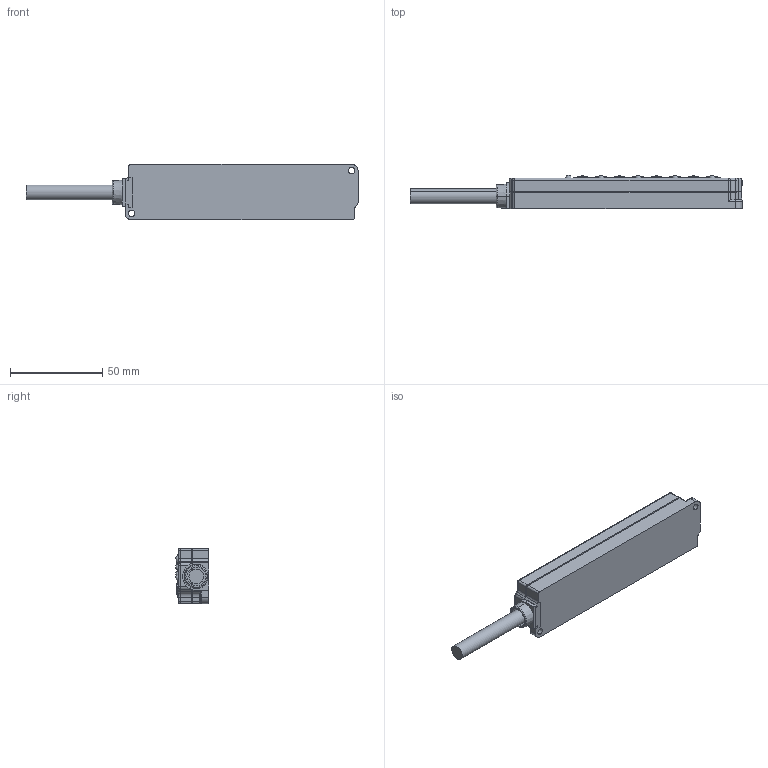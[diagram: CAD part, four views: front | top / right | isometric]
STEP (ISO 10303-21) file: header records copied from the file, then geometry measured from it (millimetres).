
FILE_DESCRIPTION (( 'STEP AP214' ), '1' );
FILE_NAME ('AJB8M8-3P-D2.STEP', '2019-12-16T02:41:34', ( '微软用户' ), ( '微软中国' ), 'SwSTEP 2.0', 'SolidWorks 2016', '' );
FILE_SCHEMA (( 'AUTOMOTIVE_DESIGN' ));
Length unit declared in the file: millimetre
Products named in the file (1): AJB8M8-3P-D2
Bounding box: 179.6 x 17.9 x 30 mm (x, y, z)
Surface area: 37629.5 mm2 (no closed solid volume)
Topology: 0 solids, 39 shells, 990 faces, 2585 edges, 1702 vertices
Faces by surface type: plane 522, cylinder 381, bspline 46, cone 27, torus 10, sphere 4
Entity records: 57665 total; most frequent: CARTESIAN_POINT 22907, ORIENTED_EDGE 5086, DIRECTION 4348, EDGE_CURVE 2559, VERTEX_POINT 1701, VECTOR 1490, LINE 1490, AXIS2_PLACEMENT_3D 1429
